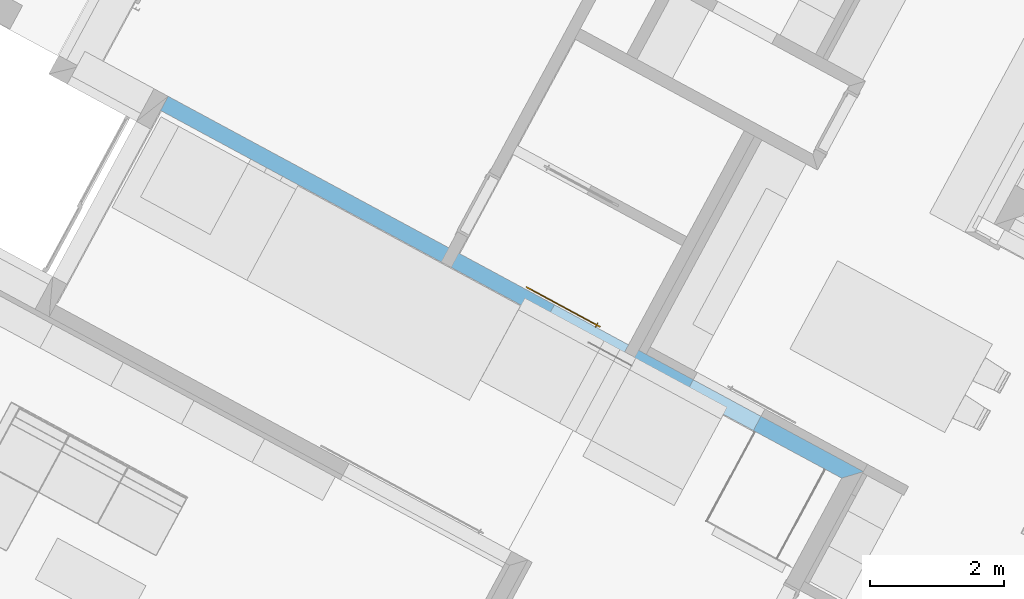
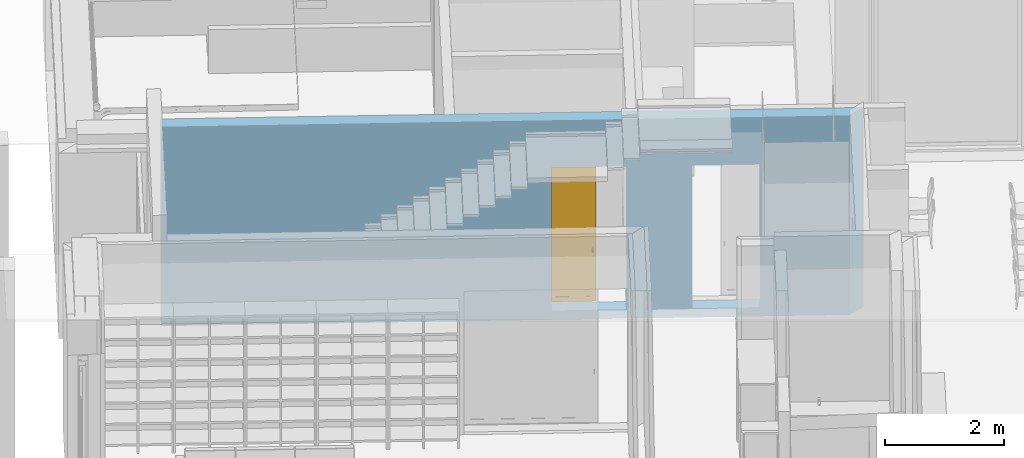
# One storey, part 6 of 36: 1 door, 2 openings, plus 1 element that does not belong to this part.
"""IFC2X3 building model written with IfcOpenShell, lengths in metres."""

from ifc_helpers import new_model, entity, si_unit, converted_unit, derived_unit, money_unit, direction, frame, origin_with_axes, origin_2d_with_axis, place, context, subcontext, project, spatial, polyline, rectangle, outline, extrude, faceted_brep, material, layer, layer_set, layer_usage, type_object, element, fill, save


model = new_model("IFC2X3")

# Units and contexts
model_context = context("Model", 3, precision=1e-05, world=origin_with_axes(), true_north=direction((0.0, 1.0)))
body_context = subcontext(model_context, "Body", "Model", "MODEL_VIEW")
ifc_project = project(units=[si_unit("LENGTHUNIT", "METRE"), si_unit("AREAUNIT", "SQUARE_METRE"), si_unit("VOLUMEUNIT", "CUBIC_METRE"), converted_unit("PLANEANGLEUNIT", "DEGREE", entity("IfcPlaneAngleMeasure", 0.0174532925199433), si_unit("PLANEANGLEUNIT", "RADIAN"), dimensions=[0, 0, 0, 0, 0, 0, 0]), money_unit("EUR"), converted_unit("TIMEUNIT", "Year", entity("IfcTimeMeasure", 31556926.0), si_unit("TIMEUNIT", "SECOND"), dimensions=[0, 0, 1, 0, 0, 0, 0]), si_unit("MASSUNIT", "GRAM", prefix="KILO"), si_unit("THERMODYNAMICTEMPERATUREUNIT", "DEGREE_CELSIUS"), si_unit("LUMINOUSINTENSITYUNIT", "LUMEN"), si_unit("ENERGYUNIT", "JOULE", prefix="MEGA"), derived_unit("THERMALCONDUCTANCEUNIT", [(si_unit("POWERUNIT", "WATT"), 1), (si_unit("LENGTHUNIT", "METRE"), -1), (si_unit("THERMODYNAMICTEMPERATUREUNIT", "KELVIN"), -1)]), derived_unit("SPECIFICHEATCAPACITYUNIT", [(si_unit("ENERGYUNIT", "JOULE"), 1), (si_unit("MASSUNIT", "GRAM", prefix="KILO"), -1), (si_unit("THERMODYNAMICTEMPERATUREUNIT", "KELVIN"), -1)]), derived_unit("MASSDENSITYUNIT", [(si_unit("MASSUNIT", "GRAM", prefix="KILO"), 1), (si_unit("VOLUMEUNIT", "CUBIC_METRE"), -1)])], contexts=[model_context])

# Site, building, storey
site_placement = place(None, frame((-3.949935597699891, 1.740105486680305, 0.0), z_axis=(0.0, 0.0, 1.0), x_axis=(0.8799804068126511, -0.475009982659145, 0.0)))
site = spatial("IfcSite", under=ifc_project, at=site_placement, Name="Gelände", CompositionType="ELEMENT")
building_placement = place(site_placement, origin_with_axes())
building = spatial("IfcBuilding", under=site, at=building_placement, Name="Gebäude", CompositionType="ELEMENT")
storey_placement = place(building_placement, origin_with_axes())
storey = spatial("IfcBuildingStorey", under=building, at=storey_placement, Name="Erdgeschoss", CompositionType="ELEMENT", Elevation=0.0)

# Wall, openings, door
ifc_material = material(Name="_SIWH - Beton, Stahlbeton")
ifc_layer = layer(ifc_material, 0.24, ventilated="UNKNOWN")
ifc_layer_set = layer_set([ifc_layer], Name="_SIWH - WI | Stb. 24 | 24cm")
ifc_layer_usage = layer_usage(ifc_layer_set, "AXIS2", "NEGATIVE", 0.0)
wall_type = type_object("IfcWallType", Name="_SIWH - WI | Stb. 24 | 24cm 240", PredefinedType="NOTDEFINED")
wall_placement = place(storey_placement, frame((5.59748143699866, 10.89780061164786, -0.18), z_axis=(0.0, 0.0, 1.0), x_axis=(0.9999999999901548, 4.437408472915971e-06, 0.0)))
wall = element("IfcWallStandardCase", 1, at=wall_placement, inside=storey, type_object=wall_type, material=ifc_layer_usage, Name="I-Wand005", ObjectType="NOTDEFINED", context=body_context, shape_type="SweptSolid", body=[
    extrude(outline(polyline([(0.0, -0.240000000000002), (11.57000574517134, -0.240000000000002), (11.81000681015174, 0.0), (0.0, 0.0), (0.0, -0.240000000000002)])), origin_with_axes(), (0.0, 0.0, 1.0), 4.080000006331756),
])
opening_1_placement = place(wall_placement, frame((7.190006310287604, 0.0, 0.18), z_axis=(0.0, 0.0, 1.0), x_axis=(1.0, 0.0, 0.0)))
opening_1 = element("IfcOpeningElement", 2, at=opening_1_placement, cuts=wall, Name="I-Wand061", context=body_context, shape_type="SweptSolid", body=[
    extrude(rectangle(XDim=1.260000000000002, YDim=2.94, at=origin_2d_with_axis()), frame((1.153655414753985e-06, 0.01996809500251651, 1.47), z_axis=(4.437408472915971e-06, 0.9999999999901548, 0.0), x_axis=(0.9999999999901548, -4.437408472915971e-06, 0.0)), (0.0, 0.0, -1.0), 0.5),
    extrude(rectangle(XDim=1.260000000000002, YDim=2.94, at=origin_2d_with_axis()), frame((1.153655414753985e-06, 0.01996809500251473, 1.47), z_axis=(-4.437408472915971e-06, -0.9999999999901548, 0.0), x_axis=(0.9999999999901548, -4.437408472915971e-06, 0.0)), (0.0, 0.0, -1.0), 0.26),
])
opening_2_placement = place(wall_placement, frame((9.495005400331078, 0.0, 0.18), z_axis=(0.0, 0.0, 1.0), x_axis=(1.0, 0.0, 0.0)))
element("IfcOpeningElement", 3, at=opening_2_placement, cuts=wall, Name="I-Wand062", context=body_context, shape_type="SweptSolid", body=[
    extrude(rectangle(XDim=1.149999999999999, YDim=2.94, at=origin_2d_with_axis()), frame((0.0, -0.2400000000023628, 1.47), z_axis=(-4.437408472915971e-06, -0.9999999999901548, 0.0), x_axis=(-0.9999999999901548, 4.437408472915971e-06, 0.0)), (0.0, 0.0, -1.0), 0.895),
])
door_style = type_object("IfcDoorStyle", Name="Schiebetür 02 1-Fl 26", ConstructionType="NOTDEFINED", OperationType="SLIDING_TO_RIGHT", ParameterTakesPrecedence=False, Sizeable=False)
door_placement = place(opening_1_placement, frame((-0.6300000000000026, 0.0, 0.0), z_axis=(0.0, 0.0, 1.0), x_axis=(1.0, 0.0, 0.0)))
door = element("IfcDoor", 4, at=door_placement, inside=storey, type_object=door_style, Name="I-Wand061", ObjectType="DOOR", OverallHeight=2.94, OverallWidth=1.26, context=body_context, shape_type="Brep", body=[
    faceted_brep([(-0.499948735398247, 0.04497310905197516, 0.09999999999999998), (-0.3999487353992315, 0.04497266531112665, 0.09999999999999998), (-0.3999488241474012, 0.02497266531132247, 0.09999999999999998), (-0.4999488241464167, 0.02497310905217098, 0.09999999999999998), (-0.499948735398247, 0.04497310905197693, 2.8399), (-0.3999487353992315, 0.04497266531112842, 2.8399), (-0.3999488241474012, 0.02497266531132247, 2.8399), (-0.4999488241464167, 0.02497310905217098, 2.8399)], [[[0, 1, 2, 3]], [[0, 4, 5, 1]], [[1, 5, 6, 2]], [[3, 2, 6, 7]], [[4, 0, 3, 7]], [[5, 4, 7, 6]]]),
    faceted_brep([(0.7599512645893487, 0.04496751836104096, 2.8399), (0.6599512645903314, 0.04496796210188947, 2.8399), (0.6599511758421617, 0.02496796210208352, 2.8399), (0.759951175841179, 0.02496751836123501, 2.8399), (0.7599512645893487, 0.04496751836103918, 0.09999999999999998), (0.6599512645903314, 0.04496796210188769, 0.09999999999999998), (0.6599511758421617, 0.02496796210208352, 0.09999999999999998), (0.759951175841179, 0.02496751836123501, 0.09999999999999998)], [[[0, 1, 2, 3]], [[0, 4, 5, 1]], [[1, 5, 6, 2]], [[3, 2, 6, 7]], [[4, 0, 3, 7]], [[5, 4, 7, 6]]]),
    faceted_brep([(0.7599512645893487, 0.04496751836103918, 0.0), (0.7599512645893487, 0.04496751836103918, 0.09999999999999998), (0.759951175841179, 0.02496751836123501, 0.09999999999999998), (0.759951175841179, 0.02496751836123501, 0.0), (-0.499948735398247, 0.04497310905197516, 0.0), (-0.499948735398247, 0.04497310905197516, 0.09999999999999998), (-0.3999487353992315, 0.04497266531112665, 0.09999999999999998), (0.6599512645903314, 0.04496796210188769, 0.09999999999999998), (0.6599511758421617, 0.02496796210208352, 0.09999999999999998), (-0.3999488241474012, 0.02497266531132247, 0.09999999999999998), (-0.4999488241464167, 0.02497310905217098, 0.09999999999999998), (-0.4999488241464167, 0.02497310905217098, 0.0)], [[[0, 1, 2, 3]], [[0, 4, 5, 6, 7, 1]], [[1, 7, 8, 2]], [[3, 2, 8, 9, 10, 11]], [[4, 0, 3, 11]], [[5, 4, 11, 10]], [[6, 5, 10, 9]], [[7, 6, 9, 8]]]),
    faceted_brep([(-0.499948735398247, 0.04497310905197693, 2.9399), (-0.499948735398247, 0.04497310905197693, 2.8399), (-0.4999488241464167, 0.02497310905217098, 2.8399), (-0.4999488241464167, 0.02497310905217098, 2.9399), (0.7599512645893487, 0.04496751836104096, 2.9399), (0.7599512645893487, 0.04496751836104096, 2.8399), (0.6599512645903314, 0.04496796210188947, 2.8399), (-0.3999487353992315, 0.04497266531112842, 2.8399), (-0.3999488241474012, 0.02497266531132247, 2.8399), (0.6599511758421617, 0.02496796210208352, 2.8399), (0.759951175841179, 0.02496751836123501, 2.8399), (0.759951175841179, 0.02496751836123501, 2.9399)], [[[0, 1, 2, 3]], [[0, 4, 5, 6, 7, 1]], [[1, 7, 8, 2]], [[3, 2, 8, 9, 10, 11]], [[4, 0, 3, 11]], [[5, 4, 11, 10]], [[6, 5, 10, 9]], [[7, 6, 9, 8]]]),
    faceted_brep([(-0.3999487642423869, 0.03847266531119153, 0.09999999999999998), (0.659951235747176, 0.03846796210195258, 0.09999999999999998), (0.6599512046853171, 0.03146796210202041, 0.09999999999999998), (-0.3999487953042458, 0.03147266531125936, 0.09999999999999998), (-0.3999487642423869, 0.03847266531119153, 2.8399), (0.659951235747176, 0.03846796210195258, 2.8399), (0.6599512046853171, 0.03146796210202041, 2.8399), (-0.3999487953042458, 0.03147266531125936, 2.8399)], [[[0, 1, 2, 3]], [[0, 4, 5, 1]], [[1, 5, 6, 2]], [[3, 2, 6, 7]], [[4, 0, 3, 7]], [[5, 4, 7, 6]]]),
    faceted_brep([(0.6929511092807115, 0.009967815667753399, 1.085980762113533), (0.6938889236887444, 0.008217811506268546, 1.089011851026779), (0.6938889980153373, 0.02496781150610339, 1.0935), (0.6929511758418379, 0.02496781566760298, 1.09), (0.6929510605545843, -0.00101294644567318, 1.075), (0.6938888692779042, -0.00404403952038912, 1.07675), (0.696451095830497, 0.00693671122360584, 1.091230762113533), (0.696451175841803, 0.02496780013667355, 1.096062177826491), (0.69995117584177, 0.02496778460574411, 1.097), (0.7034511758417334, 0.02496776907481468, 1.096062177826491), (0.706013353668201, 0.02496775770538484, 1.0935), (0.7069511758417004, 0.02496775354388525, 1.09), (0.706013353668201, 0.02496775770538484, 1.0865), (0.7034511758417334, 0.02496776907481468, 1.083937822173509), (0.69995117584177, 0.02496778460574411, 1.083), (0.696451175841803, 0.02496780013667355, 1.083937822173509), (0.6938889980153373, 0.02496781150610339, 1.0865), (0.6938889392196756, 0.01171781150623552, 1.082949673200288), (0.6929510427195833, -0.005032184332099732, 1.06), (0.6938888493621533, -0.008532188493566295, 1.06), (0.6964510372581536, -0.006262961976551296, 1.078031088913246), (0.6938888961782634, 0.002018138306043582, 1.07325), (0.6999510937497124, 0.006467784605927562, 1.092042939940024), (0.7034510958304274, 0.006936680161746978, 1.091230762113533), (0.7060132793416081, 0.00821775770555, 1.089011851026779), (0.706951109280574, 0.009967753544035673, 1.085980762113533), (0.7060132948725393, 0.01171775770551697, 1.082949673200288), (0.7034511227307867, 0.01299885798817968, 1.080730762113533), (0.6999511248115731, 0.01346778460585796, 1.079918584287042), (0.6964511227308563, 0.01299888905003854, 1.080730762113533), (0.6938888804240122, -0.0015321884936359, 1.06), (0.6964510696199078, 0.001029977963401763, 1.06), (0.6999510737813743, 0.001967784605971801, 1.06), (0.7034510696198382, 0.0010299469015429, 1.06), (0.7060132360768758, -0.001532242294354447, 1.06), (0.7069510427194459, -0.005032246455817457, 1.06), (0.706013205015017, -0.008532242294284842, 1.06), (0.7034510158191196, -0.01109440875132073, 1.06), (0.6999510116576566, -0.01203221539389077, 1.06), (0.6964510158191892, -0.01109437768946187, 1.06), (0.6999510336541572, -0.007075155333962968, 1.0785), (0.6964510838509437, 0.004237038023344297, 1.071968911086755), (0.703451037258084, -0.006262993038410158, 1.078031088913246), (0.7060132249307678, -0.004044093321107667, 1.07675), (0.7069510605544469, -0.001013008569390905, 1.075), (0.7060132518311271, 0.002018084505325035, 1.07325), (0.7034510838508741, 0.004237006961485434, 1.071968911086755), (0.6999510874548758, 0.005049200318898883, 1.0715)], [[[0, 1, 2, 3]], [[4, 5, 1, 0]], [[1, 6, 7, 2]], [[3, 2, 7, 8, 9, 10, 11, 12, 13, 14, 15, 16]], [[17, 0, 3, 16]], [[18, 19, 5, 4]], [[5, 20, 6, 1]], [[21, 4, 0, 17]], [[6, 22, 8, 7]], [[22, 23, 9, 8]], [[23, 24, 10, 9]], [[24, 25, 11, 10]], [[25, 26, 12, 11]], [[26, 27, 13, 12]], [[27, 28, 14, 13]], [[28, 29, 15, 14]], [[29, 17, 16, 15]], [[18, 30, 31, 32, 33, 34, 35, 36, 37, 38, 39, 19]], [[19, 39, 20, 5]], [[30, 18, 4, 21]], [[20, 40, 22, 6]], [[41, 21, 17, 29]], [[40, 42, 23, 22]], [[42, 43, 24, 23]], [[43, 44, 25, 24]], [[44, 45, 26, 25]], [[45, 46, 27, 26]], [[46, 47, 28, 27]], [[47, 41, 29, 28]], [[31, 30, 21, 41]], [[32, 31, 41, 47]], [[33, 32, 47, 46]], [[34, 33, 46, 45]], [[35, 34, 45, 44]], [[36, 35, 44, 43]], [[37, 36, 43, 42]], [[38, 37, 42, 40]], [[39, 38, 40, 20]]]),
    faceted_brep([(0.706951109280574, 0.009967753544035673, 1.014019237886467), (0.7060132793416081, 0.00821775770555, 1.010988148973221), (0.706013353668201, 0.02496775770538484, 1.0065), (0.7069511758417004, 0.02496775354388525, 1.01), (0.7069510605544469, -0.001013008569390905, 1.025), (0.7060132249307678, -0.004044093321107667, 1.02325), (0.7034510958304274, 0.006936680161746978, 1.008769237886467), (0.7034511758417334, 0.02496776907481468, 1.003937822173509), (0.69995117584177, 0.02496778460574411, 1.003), (0.696451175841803, 0.02496780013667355, 1.003937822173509), (0.6938889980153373, 0.02496781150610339, 1.0065), (0.6929511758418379, 0.02496781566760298, 1.01), (0.6938889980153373, 0.02496781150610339, 1.0135), (0.696451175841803, 0.02496780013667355, 1.016062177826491), (0.69995117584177, 0.02496778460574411, 1.017), (0.7034511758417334, 0.02496776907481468, 1.016062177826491), (0.706013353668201, 0.02496775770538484, 1.0135), (0.7060132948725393, 0.01171775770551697, 1.017050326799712), (0.7069510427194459, -0.005032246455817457, 1.04), (0.706013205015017, -0.008532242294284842, 1.04), (0.703451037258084, -0.006262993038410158, 1.021968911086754), (0.7060132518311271, 0.002018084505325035, 1.02675), (0.6999510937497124, 0.006467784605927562, 1.007957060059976), (0.696451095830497, 0.00693671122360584, 1.008769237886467), (0.6938889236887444, 0.008217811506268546, 1.010988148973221), (0.6929511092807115, 0.009967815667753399, 1.014019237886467), (0.6938889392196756, 0.01171781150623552, 1.017050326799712), (0.6964511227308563, 0.01299888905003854, 1.019269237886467), (0.6999511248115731, 0.01346778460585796, 1.020081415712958), (0.7034511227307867, 0.01299885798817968, 1.019269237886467), (0.7060132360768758, -0.001532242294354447, 1.04), (0.7034510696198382, 0.0010299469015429, 1.04), (0.6999510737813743, 0.001967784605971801, 1.04), (0.6964510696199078, 0.001029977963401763, 1.04), (0.6938888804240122, -0.0015321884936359, 1.04), (0.6929510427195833, -0.005032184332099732, 1.04), (0.6938888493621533, -0.008532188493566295, 1.04), (0.6964510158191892, -0.01109437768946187, 1.04), (0.6999510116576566, -0.01203221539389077, 1.04), (0.7034510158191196, -0.01109440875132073, 1.04), (0.6999510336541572, -0.007075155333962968, 1.0215), (0.7034510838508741, 0.004237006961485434, 1.028031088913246), (0.6964510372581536, -0.006262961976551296, 1.021968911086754), (0.6938888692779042, -0.00404403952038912, 1.02325), (0.6929510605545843, -0.00101294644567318, 1.025), (0.6938888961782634, 0.002018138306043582, 1.02675), (0.6964510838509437, 0.004237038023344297, 1.028031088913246), (0.6999510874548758, 0.005049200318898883, 1.0285)], [[[0, 1, 2, 3]], [[4, 5, 1, 0]], [[1, 6, 7, 2]], [[3, 2, 7, 8, 9, 10, 11, 12, 13, 14, 15, 16]], [[17, 0, 3, 16]], [[18, 19, 5, 4]], [[5, 20, 6, 1]], [[21, 4, 0, 17]], [[6, 22, 8, 7]], [[22, 23, 9, 8]], [[23, 24, 10, 9]], [[24, 25, 11, 10]], [[25, 26, 12, 11]], [[26, 27, 13, 12]], [[27, 28, 14, 13]], [[28, 29, 15, 14]], [[29, 17, 16, 15]], [[18, 30, 31, 32, 33, 34, 35, 36, 37, 38, 39, 19]], [[19, 39, 20, 5]], [[30, 18, 4, 21]], [[20, 40, 22, 6]], [[41, 21, 17, 29]], [[40, 42, 23, 22]], [[42, 43, 24, 23]], [[43, 44, 25, 24]], [[44, 45, 26, 25]], [[45, 46, 27, 26]], [[46, 47, 28, 27]], [[47, 41, 29, 28]], [[31, 30, 21, 41]], [[32, 31, 41, 47]], [[33, 32, 47, 46]], [[34, 33, 46, 45]], [[35, 34, 45, 44]], [[36, 35, 44, 43]], [[37, 36, 43, 42]], [[38, 37, 42, 40]], [[39, 38, 40, 20]]]),
    faceted_brep([(0.6929510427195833, -0.005032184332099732, 1.04), (0.6929510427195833, -0.005032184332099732, 1.06), (0.6938888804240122, -0.0015321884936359, 1.06), (0.6938888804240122, -0.0015321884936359, 1.04), (0.6938888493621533, -0.008532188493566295, 1.04), (0.6938888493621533, -0.008532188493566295, 1.06), (0.6964510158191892, -0.01109437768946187, 1.06), (0.6999510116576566, -0.01203221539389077, 1.06), (0.7034510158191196, -0.01109440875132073, 1.06), (0.706013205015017, -0.008532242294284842, 1.06), (0.7069510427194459, -0.005032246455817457, 1.06), (0.7060132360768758, -0.001532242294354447, 1.06), (0.7034510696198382, 0.0010299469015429, 1.06), (0.6999510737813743, 0.001967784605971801, 1.06), (0.6964510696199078, 0.001029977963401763, 1.06), (0.6964510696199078, 0.001029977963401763, 1.04), (0.6999510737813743, 0.001967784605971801, 1.04), (0.7034510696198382, 0.0010299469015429, 1.04), (0.7060132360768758, -0.001532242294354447, 1.04), (0.7069510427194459, -0.005032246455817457, 1.04), (0.706013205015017, -0.008532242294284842, 1.04), (0.7034510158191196, -0.01109440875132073, 1.04), (0.6999510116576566, -0.01203221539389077, 1.04), (0.6964510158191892, -0.01109437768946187, 1.04)], [[[0, 1, 2, 3]], [[4, 5, 1, 0]], [[1, 5, 6, 7, 8, 9, 10, 11, 12, 13, 14, 2]], [[3, 2, 14, 15]], [[0, 3, 15, 16, 17, 18, 19, 20, 21, 22, 23, 4]], [[23, 6, 5, 4]], [[22, 7, 6, 23]], [[21, 8, 7, 22]], [[20, 9, 8, 21]], [[19, 10, 9, 20]], [[18, 11, 10, 19]], [[17, 12, 11, 18]], [[16, 13, 12, 17]], [[15, 14, 13, 16]]]),
    faceted_brep([(0.6929513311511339, 0.05996781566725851, 1.085980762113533), (0.6929512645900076, 0.04496781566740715, 1.09), (0.693889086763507, 0.04496781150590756, 1.0935), (0.6938891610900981, 0.0617178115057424, 1.089011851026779), (0.6938891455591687, 0.05821781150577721, 1.082949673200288), (0.693889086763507, 0.04496781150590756, 1.0865), (0.6964512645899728, 0.04496780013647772, 1.083937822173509), (0.6999512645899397, 0.04496778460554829, 1.083), (0.7034512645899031, 0.04496776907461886, 1.083937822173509), (0.7060134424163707, 0.04496775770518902, 1.0865), (0.7069512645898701, 0.04496775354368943, 1.09), (0.7060134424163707, 0.04496775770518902, 1.0935), (0.7034512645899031, 0.04496776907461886, 1.096062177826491), (0.6999512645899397, 0.04496778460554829, 1.097), (0.6964512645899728, 0.04496780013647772, 1.096062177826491), (0.6964513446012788, 0.0629988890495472, 1.091230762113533), (0.6929513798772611, 0.07094857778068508, 1.075), (0.6938892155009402, 0.07397966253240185, 1.07675), (0.6964513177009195, 0.0569367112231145, 1.080730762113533), (0.6938891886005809, 0.06791748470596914, 1.07325), (0.6999513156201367, 0.05646778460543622, 1.079918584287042), (0.7034513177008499, 0.05693668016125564, 1.080730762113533), (0.7060135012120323, 0.05821775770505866, 1.082949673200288), (0.7069513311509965, 0.05996775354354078, 1.085980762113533), (0.7060135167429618, 0.06171775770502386, 1.089011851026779), (0.7034513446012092, 0.06299885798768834, 1.091230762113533), (0.6999513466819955, 0.06346778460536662, 1.092042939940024), (0.6964514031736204, 0.07619856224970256, 1.078031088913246), (0.6929513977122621, 0.07496781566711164, 1.06), (0.693889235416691, 0.07846781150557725, 1.06), (0.6964513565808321, 0.06569856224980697, 1.071968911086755), (0.6938892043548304, 0.07146781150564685, 1.06), (0.699951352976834, 0.06488636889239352, 1.0715), (0.7034513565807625, 0.0656985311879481, 1.071968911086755), (0.7060135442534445, 0.0679174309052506, 1.07325), (0.7069513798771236, 0.07094851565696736, 1.075), (0.7060135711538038, 0.0739796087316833, 1.07675), (0.7034514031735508, 0.0761985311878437, 1.078031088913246), (0.6999514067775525, 0.07701072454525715, 1.0785), (0.6964514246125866, 0.08102997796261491, 1.06), (0.6999514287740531, 0.08196778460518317, 1.06), (0.703451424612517, 0.08102994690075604, 1.06), (0.7060135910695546, 0.0784677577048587, 1.06), (0.7069513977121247, 0.07496775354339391, 1.06), (0.706013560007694, 0.0714677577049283, 1.06), (0.7034513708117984, 0.06890559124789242, 1.06), (0.6999513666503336, 0.06796778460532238, 1.06), (0.696451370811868, 0.06890562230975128, 1.06)], [[[0, 1, 2, 3]], [[4, 5, 1, 0]], [[1, 5, 6, 7, 8, 9, 10, 11, 12, 13, 14, 2]], [[3, 2, 14, 15]], [[16, 0, 3, 17]], [[18, 6, 5, 4]], [[19, 4, 0, 16]], [[20, 7, 6, 18]], [[21, 8, 7, 20]], [[22, 9, 8, 21]], [[23, 10, 9, 22]], [[24, 11, 10, 23]], [[25, 12, 11, 24]], [[26, 13, 12, 25]], [[15, 14, 13, 26]], [[17, 3, 15, 27]], [[28, 16, 17, 29]], [[30, 18, 4, 19]], [[31, 19, 16, 28]], [[32, 20, 18, 30]], [[33, 21, 20, 32]], [[34, 22, 21, 33]], [[35, 23, 22, 34]], [[36, 24, 23, 35]], [[37, 25, 24, 36]], [[38, 26, 25, 37]], [[27, 15, 26, 38]], [[29, 17, 27, 39]], [[28, 29, 39, 40, 41, 42, 43, 44, 45, 46, 47, 31]], [[47, 30, 19, 31]], [[46, 32, 30, 47]], [[45, 33, 32, 46]], [[44, 34, 33, 45]], [[43, 35, 34, 44]], [[42, 36, 35, 43]], [[41, 37, 36, 42]], [[40, 38, 37, 41]], [[39, 27, 38, 40]]]),
    faceted_brep([(0.7069513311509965, 0.05996775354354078, 1.014019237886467), (0.7069512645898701, 0.04496775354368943, 1.01), (0.7060134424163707, 0.04496775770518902, 1.0065), (0.7060135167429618, 0.06171775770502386, 1.010988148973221), (0.7060135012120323, 0.05821775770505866, 1.017050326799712), (0.7060134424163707, 0.04496775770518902, 1.0135), (0.7034512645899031, 0.04496776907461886, 1.016062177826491), (0.6999512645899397, 0.04496778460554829, 1.017), (0.6964512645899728, 0.04496780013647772, 1.016062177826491), (0.693889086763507, 0.04496781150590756, 1.0135), (0.6929512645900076, 0.04496781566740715, 1.01), (0.693889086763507, 0.04496781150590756, 1.0065), (0.6964512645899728, 0.04496780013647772, 1.003937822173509), (0.6999512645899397, 0.04496778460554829, 1.003), (0.7034512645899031, 0.04496776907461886, 1.003937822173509), (0.7034513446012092, 0.06299885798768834, 1.008769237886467), (0.7069513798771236, 0.07094851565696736, 1.025), (0.7060135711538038, 0.0739796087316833, 1.02325), (0.7034513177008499, 0.05693668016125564, 1.019269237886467), (0.7060135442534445, 0.0679174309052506, 1.02675), (0.6999513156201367, 0.05646778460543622, 1.020081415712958), (0.6964513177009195, 0.0569367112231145, 1.019269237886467), (0.6938891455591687, 0.05821781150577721, 1.017050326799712), (0.6929513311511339, 0.05996781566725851, 1.014019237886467), (0.6938891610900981, 0.0617178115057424, 1.010988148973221), (0.6964513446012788, 0.0629988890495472, 1.008769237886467), (0.6999513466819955, 0.06346778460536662, 1.007957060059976), (0.7034514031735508, 0.0761985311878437, 1.021968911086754), (0.7069513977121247, 0.07496775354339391, 1.04), (0.7060135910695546, 0.0784677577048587, 1.04), (0.7034513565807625, 0.0656985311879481, 1.028031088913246), (0.706013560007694, 0.0714677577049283, 1.04), (0.699951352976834, 0.06488636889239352, 1.0285), (0.6964513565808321, 0.06569856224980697, 1.028031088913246), (0.6938891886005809, 0.06791748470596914, 1.02675), (0.6929513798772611, 0.07094857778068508, 1.025), (0.6938892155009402, 0.07397966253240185, 1.02325), (0.6964514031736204, 0.07619856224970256, 1.021968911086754), (0.6999514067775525, 0.07701072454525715, 1.0215), (0.703451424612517, 0.08102994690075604, 1.04), (0.6999514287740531, 0.08196778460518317, 1.04), (0.6964514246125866, 0.08102997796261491, 1.04), (0.693889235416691, 0.07846781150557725, 1.04), (0.6929513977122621, 0.07496781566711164, 1.04), (0.6938892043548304, 0.07146781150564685, 1.04), (0.696451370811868, 0.06890562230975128, 1.04), (0.6999513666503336, 0.06796778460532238, 1.04), (0.7034513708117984, 0.06890559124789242, 1.04)], [[[0, 1, 2, 3]], [[4, 5, 1, 0]], [[1, 5, 6, 7, 8, 9, 10, 11, 12, 13, 14, 2]], [[3, 2, 14, 15]], [[16, 0, 3, 17]], [[18, 6, 5, 4]], [[19, 4, 0, 16]], [[20, 7, 6, 18]], [[21, 8, 7, 20]], [[22, 9, 8, 21]], [[23, 10, 9, 22]], [[24, 11, 10, 23]], [[25, 12, 11, 24]], [[26, 13, 12, 25]], [[15, 14, 13, 26]], [[17, 3, 15, 27]], [[28, 16, 17, 29]], [[30, 18, 4, 19]], [[31, 19, 16, 28]], [[32, 20, 18, 30]], [[33, 21, 20, 32]], [[34, 22, 21, 33]], [[35, 23, 22, 34]], [[36, 24, 23, 35]], [[37, 25, 24, 36]], [[38, 26, 25, 37]], [[27, 15, 26, 38]], [[29, 17, 27, 39]], [[28, 29, 39, 40, 41, 42, 43, 44, 45, 46, 47, 31]], [[47, 30, 19, 31]], [[46, 32, 30, 47]], [[45, 33, 32, 46]], [[44, 34, 33, 45]], [[43, 35, 34, 44]], [[42, 36, 35, 43]], [[41, 37, 36, 42]], [[40, 38, 37, 41]], [[39, 27, 38, 40]]]),
    faceted_brep([(0.6929513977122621, 0.07496781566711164, 1.04), (0.6938892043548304, 0.07146781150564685, 1.04), (0.6938892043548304, 0.07146781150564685, 1.06), (0.6929513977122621, 0.07496781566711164, 1.06), (0.693889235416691, 0.07846781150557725, 1.04), (0.6964514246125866, 0.08102997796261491, 1.04), (0.6999514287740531, 0.08196778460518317, 1.04), (0.703451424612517, 0.08102994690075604, 1.04), (0.7060135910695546, 0.0784677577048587, 1.04), (0.7069513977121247, 0.07496775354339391, 1.04), (0.706013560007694, 0.0714677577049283, 1.04), (0.7034513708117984, 0.06890559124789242, 1.04), (0.6999513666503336, 0.06796778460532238, 1.04), (0.696451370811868, 0.06890562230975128, 1.04), (0.696451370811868, 0.06890562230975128, 1.06), (0.6999513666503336, 0.06796778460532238, 1.06), (0.7034513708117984, 0.06890559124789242, 1.06), (0.706013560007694, 0.0714677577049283, 1.06), (0.7069513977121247, 0.07496775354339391, 1.06), (0.7060135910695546, 0.0784677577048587, 1.06), (0.703451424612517, 0.08102994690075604, 1.06), (0.6999514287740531, 0.08196778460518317, 1.06), (0.6964514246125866, 0.08102997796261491, 1.06), (0.693889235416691, 0.07846781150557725, 1.06)], [[[0, 1, 2, 3]], [[0, 4, 5, 6, 7, 8, 9, 10, 11, 12, 13, 1]], [[1, 13, 14, 2]], [[3, 2, 14, 15, 16, 17, 18, 19, 20, 21, 22, 23]], [[4, 0, 3, 23]], [[5, 4, 23, 22]], [[6, 5, 22, 21]], [[7, 6, 21, 20]], [[8, 7, 20, 19]], [[9, 8, 19, 18]], [[10, 9, 18, 17]], [[11, 10, 17, 16]], [[12, 11, 16, 15]], [[13, 12, 15, 14]]]),
])
fill(opening_1, door)

save(model, "model.ifc")
